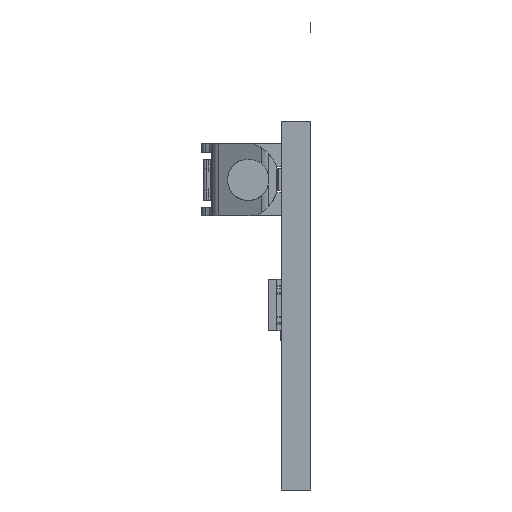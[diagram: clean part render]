
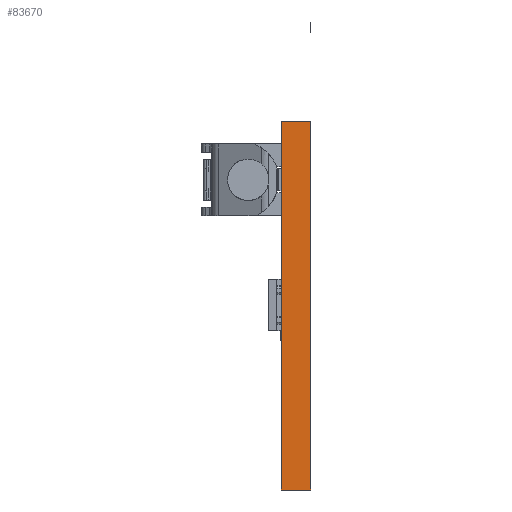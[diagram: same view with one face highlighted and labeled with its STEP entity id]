
A CAD part, left-side view. The second image highlights one B-rep face of the part: STEP entity #83670.
In plain terms, the highlighted planar face has unit normal (-1, 0, 0).
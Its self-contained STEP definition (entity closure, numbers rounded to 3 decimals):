
#10991=DIRECTION('',(0.,0.,1.));
#10992=VECTOR('',#10991,20.);
#10993=CARTESIAN_POINT('',(-139.5,0.,-10.));
#10994=LINE('',#10993,#10992);
#33823=DIRECTION('',(0.,0.,1.));
#33824=VECTOR('',#33823,20.);
#33825=CARTESIAN_POINT('',(-139.5,-1.6,-10.));
#33826=LINE('',#33825,#33824);
#34163=DIRECTION('',(0.,-1.,0.));
#34164=VECTOR('',#34163,1.6);
#34165=CARTESIAN_POINT('',(-139.5,0.,-10.));
#34166=LINE('',#34165,#34164);
#34212=DIRECTION('',(0.,-1.,0.));
#34213=VECTOR('',#34212,1.6);
#34214=CARTESIAN_POINT('',(-139.5,0.,10.));
#34215=LINE('',#34214,#34213);
#36738=CARTESIAN_POINT('',(-139.5,0.,-10.));
#36739=CARTESIAN_POINT('',(-139.5,0.,10.));
#36740=VERTEX_POINT('',#36738);
#36741=VERTEX_POINT('',#36739);
#36746=CARTESIAN_POINT('',(-139.5,-1.6,-10.));
#36747=CARTESIAN_POINT('',(-139.5,-1.6,10.));
#36748=VERTEX_POINT('',#36746);
#36749=VERTEX_POINT('',#36747);
#83658=CARTESIAN_POINT('',(-139.5,0.,-10.));
#83659=DIRECTION('',(-1.,0.,0.));
#83660=DIRECTION('',(0.,0.,1.));
#83661=AXIS2_PLACEMENT_3D('',#83658,#83659,#83660);
#83662=PLANE('',#83661);
#83663=ORIENTED_EDGE('',*,*,#41959,.T.);
#83665=ORIENTED_EDGE('',*,*,#83664,.T.);
#83666=ORIENTED_EDGE('',*,*,#82935,.F.);
#83667=ORIENTED_EDGE('',*,*,#83563,.F.);
#83668=EDGE_LOOP('',(#83663,#83665,#83666,#83667));
#83669=FACE_OUTER_BOUND('',#83668,.F.);
#41959=EDGE_CURVE('',#36740,#36741,#10994,.T.);
#82935=EDGE_CURVE('',#36748,#36749,#33826,.T.);
#83563=EDGE_CURVE('',#36740,#36748,#34166,.T.);
#83664=EDGE_CURVE('',#36741,#36749,#34215,.T.);
#83670=ADVANCED_FACE('',(#83669),#83662,.T.);
